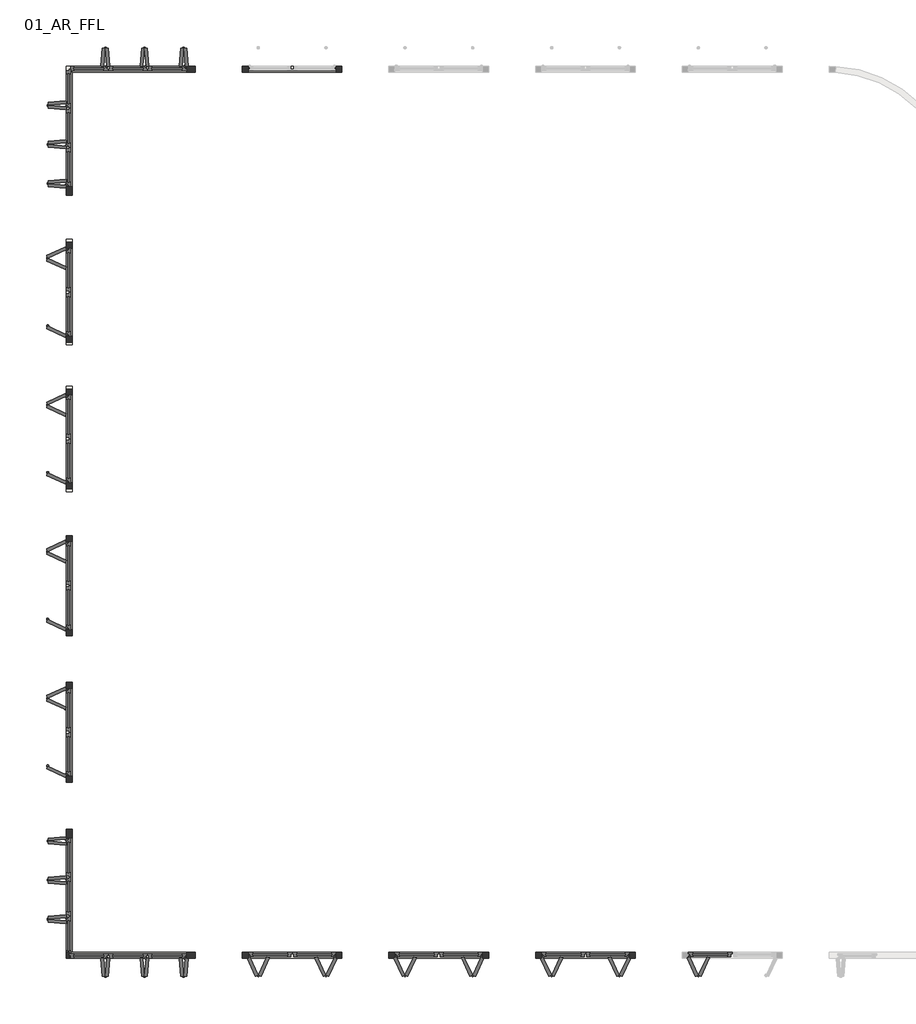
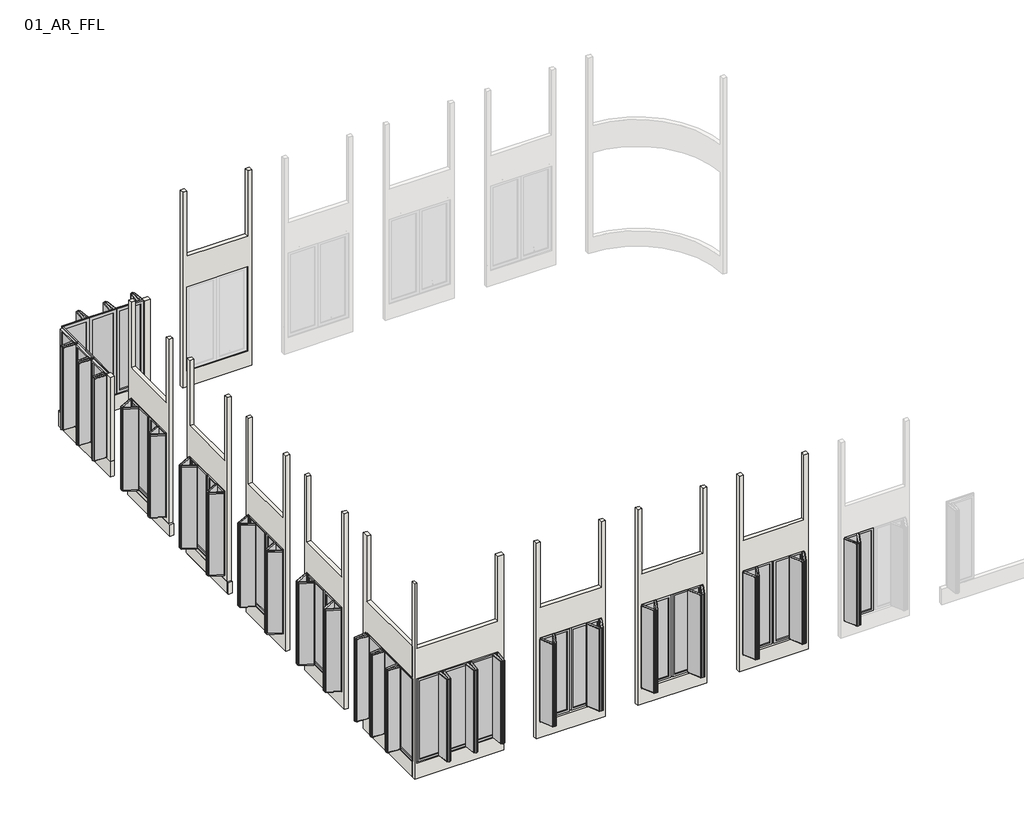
# One storey, part 1 of 2: 27 plates, 16 walls.
"""IFC4 building model written with IfcOpenShell, lengths in millimetres."""

from ifc_helpers import new_model, si_unit, frame, origin, place, context, project, spatial, polyline, outline, extrude, faceted_brep, transform, mapped, element, save
from components import vert_blinds_ff0d8fd8, vert_blinds_2d5f8e32, vert_blinds_a71b7738, vert_blinds_bae50e72

model = new_model("IFC4")

# Units and contexts
model_context = context("Model", 3, world=origin())
ifc_project = project(units=[si_unit("LENGTHUNIT", "METRE", prefix="MILLI")], contexts=[model_context])

# Site, building, storey
site = spatial("IfcSite", under=ifc_project)
building = spatial("IfcBuilding", under=site)
storey = spatial("IfcBuildingStorey", under=building, Name="01_AR_FFL", Elevation=6000.0)

# Plates
placement = place(None, origin())
vert_blinds_shape = vert_blinds_ff0d8fd8(model_context)
element("IfcPlate", 1, ObjectType="CURTAIN PANEL VODA STYLE BIFOLDING : VERT_BLINDS", at=placement, inside=storey, context=model_context, shape_type="MappedRepresentation", body=[
    mapped(vert_blinds_shape, transform((-10971.3871887, -5327.2397554, 6100.0), x_axis=(0.0, 1.0, 0.0), y_axis=(-1.0, 0.0, 0.0), z_axis=(0.0, 0.0, 1.0))),
])
element("IfcPlate", 2, ObjectType="CURTAIN PANEL VODA STYLE BIFOLDING : VERT_BLINDS", at=placement, inside=storey, context=model_context, shape_type="MappedRepresentation", body=[
    mapped(vert_blinds_shape, transform((-10971.3871887, -7827.2397554, 6100.0), x_axis=(0.0, 1.0, 0.0), y_axis=(-1.0, 0.0, 0.0), z_axis=(0.0, 0.0, 1.0))),
])
element("IfcPlate", 3, ObjectType="CURTAIN PANEL VODA STYLE BIFOLDING : VERT_BLINDS", at=placement, inside=storey, context=model_context, shape_type="MappedRepresentation", body=[
    mapped(vert_blinds_shape, transform((-10971.3871887, -10327.2397554, 6100.0), x_axis=(0.0, 1.0, 0.0), y_axis=(-1.0, 0.0, 0.0), z_axis=(0.0, 0.0, 1.0))),
])
element("IfcPlate", 4, ObjectType="CURTAIN PANEL VODA STYLE BIFOLDING : VERT_BLINDS", at=placement, inside=storey, context=model_context, shape_type="MappedRepresentation", body=[
    mapped(vert_blinds_shape, transform((-10971.3871887, -12827.2397554, 6100.0), x_axis=(0.0, 1.0, 0.0), y_axis=(-1.0, 0.0, 0.0), z_axis=(0.0, 0.0, 1.0))),
])
element("IfcPlate", 5, ObjectType="CURTAIN PANEL VODA STYLE BIFOLDING : VERT_BLINDS", at=placement, inside=storey, context=model_context, shape_type="MappedRepresentation", body=[
    mapped(vert_blinds_shape, transform((-1798.5775323, -16229.430099, 6100.0), x_axis=(-1.0, 0.0, 0.0), y_axis=(0.0, -1.0, 0.0), z_axis=(0.0, 0.0, 1.0))),
])
element("IfcPlate", 6, ObjectType="CURTAIN PANEL VODA STYLE BIFOLDING : VERT_BLINDS", at=placement, inside=storey, context=model_context, shape_type="MappedRepresentation", body=[
    mapped(vert_blinds_shape, transform((-4298.5775323, -16229.430099, 6100.0), x_axis=(-1.0, 0.0, 0.0), y_axis=(0.0, -1.0, 0.0), z_axis=(0.0, 0.0, 1.0))),
])
element("IfcPlate", 7, ObjectType="CURTAIN PANEL VODA STYLE BIFOLDING : VERT_BLINDS", at=placement, inside=storey, context=model_context, shape_type="MappedRepresentation", body=[
    mapped(vert_blinds_shape, transform((-6798.5775323, -16229.430099, 6100.0), x_axis=(-1.0, 0.0, 0.0), y_axis=(0.0, -1.0, 0.0), z_axis=(0.0, 0.0, 1.0))),
])
vert_blinds_2_shape = vert_blinds_2d5f8e32(model_context)
element("IfcPlate", 8, ObjectType="CURTAIN PANEL VODA STYLE BIFOLDING : VERT_BLINDS", at=placement, inside=storey, context=model_context, shape_type="MappedRepresentation", body=[
    mapped(vert_blinds_2_shape, transform((-10971.3871887, -4577.2397554, 6100.0), x_axis=(0.0, -1.0, 0.0), y_axis=(1.0, 0.0, 0.0), z_axis=(0.0, 0.0, 1.0))),
])
element("IfcPlate", 9, ObjectType="CURTAIN PANEL VODA STYLE BIFOLDING : VERT_BLINDS", at=placement, inside=storey, context=model_context, shape_type="MappedRepresentation", body=[
    mapped(vert_blinds_2_shape, transform((-10971.3871887, -7077.2397554, 6100.0), x_axis=(0.0, -1.0, 0.0), y_axis=(1.0, 0.0, 0.0), z_axis=(0.0, 0.0, 1.0))),
])
element("IfcPlate", 10, ObjectType="CURTAIN PANEL VODA STYLE BIFOLDING : VERT_BLINDS", at=placement, inside=storey, context=model_context, shape_type="MappedRepresentation", body=[
    mapped(vert_blinds_2_shape, transform((-10971.3871887, -9577.2397554, 6100.0), x_axis=(0.0, -1.0, 0.0), y_axis=(1.0, 0.0, 0.0), z_axis=(0.0, 0.0, 1.0))),
])
element("IfcPlate", 11, ObjectType="CURTAIN PANEL VODA STYLE BIFOLDING : VERT_BLINDS", at=placement, inside=storey, context=model_context, shape_type="MappedRepresentation", body=[
    mapped(vert_blinds_2_shape, transform((-10971.3871887, -12077.2397554, 6100.0), x_axis=(0.0, -1.0, 0.0), y_axis=(1.0, 0.0, 0.0), z_axis=(0.0, 0.0, 1.0))),
])
element("IfcPlate", 12, ObjectType="CURTAIN PANEL VODA STYLE BIFOLDING : VERT_BLINDS", at=placement, inside=storey, context=model_context, shape_type="MappedRepresentation", body=[
    mapped(vert_blinds_2_shape, transform((-48.5775323, -16229.430099, 6100.0), x_axis=(1.0, 0.0, 0.0), y_axis=(0.0, 1.0, 0.0), z_axis=(0.0, 0.0, 1.0))),
])
element("IfcPlate", 13, ObjectType="CURTAIN PANEL VODA STYLE BIFOLDING : VERT_BLINDS", at=placement, inside=storey, context=model_context, shape_type="MappedRepresentation", body=[
    mapped(vert_blinds_2_shape, transform((-2548.5775323, -16229.430099, 6100.0), x_axis=(1.0, 0.0, 0.0), y_axis=(0.0, 1.0, 0.0), z_axis=(0.0, 0.0, 1.0))),
])
element("IfcPlate", 14, ObjectType="CURTAIN PANEL VODA STYLE BIFOLDING : VERT_BLINDS", at=placement, inside=storey, context=model_context, shape_type="MappedRepresentation", body=[
    mapped(vert_blinds_2_shape, transform((-5048.5775323, -16229.430099, 6100.0), x_axis=(1.0, 0.0, 0.0), y_axis=(0.0, 1.0, 0.0), z_axis=(0.0, 0.0, 1.0))),
])
element("IfcPlate", 15, ObjectType="CURTAIN PANEL VODA STYLE BIFOLDING : VERT_BLINDS", at=placement, inside=storey, context=model_context, shape_type="MappedRepresentation", body=[
    mapped(vert_blinds_2_shape, transform((-7548.5775323, -16229.430099, 6100.0), x_axis=(1.0, 0.0, 0.0), y_axis=(0.0, 1.0, 0.0), z_axis=(0.0, 0.0, 1.0))),
])
vert_blinds_3_shape = vert_blinds_a71b7738(model_context)
element("IfcPlate", 16, ObjectType="CURTAIN PANEL VODA STYLE BIFOLDING : VERT_BLINDS", at=placement, inside=storey, context=model_context, shape_type="MappedRepresentation", body=[
    mapped(vert_blinds_3_shape, transform((-9304.680357, -1154.430099, 6100.0), x_axis=(-1.0, 0.0, 0.0), y_axis=(0.0, -1.0, 0.0), z_axis=(0.0, 0.0, 1.0))),
])
element("IfcPlate", 17, ObjectType="CURTAIN PANEL VODA STYLE BIFOLDING : VERT_BLINDS", at=placement, inside=storey, context=model_context, shape_type="MappedRepresentation", body=[
    mapped(vert_blinds_3_shape, transform((-9971.3470237, -1154.430099, 6100.0), x_axis=(-1.0, 0.0, 0.0), y_axis=(0.0, -1.0, 0.0), z_axis=(0.0, 0.0, 1.0))),
])
element("IfcPlate", 18, ObjectType="CURTAIN PANEL VODA STYLE BIFOLDING : VERT_BLINDS", at=placement, inside=storey, context=model_context, shape_type="MappedRepresentation", body=[
    mapped(vert_blinds_3_shape, transform((-10638.0136904, -1154.430099, 6100.0), x_axis=(-1.0, 0.0, 0.0), y_axis=(0.0, -1.0, 0.0), z_axis=(0.0, 0.0, 1.0))),
])
vert_blinds_4_shape = vert_blinds_bae50e72(model_context)
element("IfcPlate", 19, ObjectType="CURTAIN PANEL VODA STYLE BIFOLDING : VERT_BLINDS", at=placement, inside=storey, context=model_context, shape_type="MappedRepresentation", body=[
    mapped(vert_blinds_4_shape, transform((-10971.3470237, -1487.7634324, 6100.0), x_axis=(0.0, 1.0, 0.0), y_axis=(-1.0, 0.0, 0.0), z_axis=(0.0, 0.0, 1.0))),
])
element("IfcPlate", 20, ObjectType="CURTAIN PANEL VODA STYLE BIFOLDING : VERT_BLINDS", at=placement, inside=storey, context=model_context, shape_type="MappedRepresentation", body=[
    mapped(vert_blinds_4_shape, transform((-10971.3470237, -2821.0967657, 6100.0), x_axis=(0.0, 1.0, 0.0), y_axis=(-1.0, 0.0, 0.0), z_axis=(0.0, 0.0, 1.0))),
])
element("IfcPlate", 21, ObjectType="CURTAIN PANEL VODA STYLE BIFOLDING : VERT_BLINDS", at=placement, inside=storey, context=model_context, shape_type="MappedRepresentation", body=[
    mapped(vert_blinds_4_shape, transform((-10971.3470237, -2154.430099, 6100.0), x_axis=(0.0, 1.0, 0.0), y_axis=(-1.0, 0.0, 0.0), z_axis=(0.0, 0.0, 1.0))),
])
element("IfcPlate", 22, ObjectType="CURTAIN PANEL VODA STYLE BIFOLDING : VERT_BLINDS", at=placement, inside=storey, context=model_context, shape_type="MappedRepresentation", body=[
    mapped(vert_blinds_4_shape, transform((-9304.680357, -16254.430099, 6100.0), x_axis=(-1.0, 0.0, 0.0), y_axis=(0.0, -1.0, 0.0), z_axis=(0.0, 0.0, 1.0))),
])
element("IfcPlate", 23, ObjectType="CURTAIN PANEL VODA STYLE BIFOLDING : VERT_BLINDS", at=placement, inside=storey, context=model_context, shape_type="MappedRepresentation", body=[
    mapped(vert_blinds_4_shape, transform((-9971.3470237, -16254.430099, 6100.0), x_axis=(-1.0, 0.0, 0.0), y_axis=(0.0, -1.0, 0.0), z_axis=(0.0, 0.0, 1.0))),
])
element("IfcPlate", 24, ObjectType="CURTAIN PANEL VODA STYLE BIFOLDING : VERT_BLINDS", at=placement, inside=storey, context=model_context, shape_type="MappedRepresentation", body=[
    mapped(vert_blinds_4_shape, transform((-10638.0136904, -16254.430099, 6100.0), x_axis=(-1.0, 0.0, 0.0), y_axis=(0.0, -1.0, 0.0), z_axis=(0.0, 0.0, 1.0))),
])
element("IfcPlate", 25, ObjectType="CURTAIN PANEL VODA STYLE BIFOLDING : VERT_BLINDS", at=placement, inside=storey, context=model_context, shape_type="MappedRepresentation", body=[
    mapped(vert_blinds_3_shape, transform((-10971.3470237, -15921.0967657, 6100.0), x_axis=(0.0, -1.0, 0.0), y_axis=(1.0, 0.0, 0.0), z_axis=(0.0, 0.0, 1.0))),
])
element("IfcPlate", 26, ObjectType="CURTAIN PANEL VODA STYLE BIFOLDING : VERT_BLINDS", at=placement, inside=storey, context=model_context, shape_type="MappedRepresentation", body=[
    mapped(vert_blinds_3_shape, transform((-10971.3470237, -14587.7634324, 6100.0), x_axis=(0.0, -1.0, 0.0), y_axis=(1.0, 0.0, 0.0), z_axis=(0.0, 0.0, 1.0))),
])
element("IfcPlate", 27, ObjectType="CURTAIN PANEL VODA STYLE BIFOLDING : VERT_BLINDS", at=placement, inside=storey, context=model_context, shape_type="MappedRepresentation", body=[
    mapped(vert_blinds_3_shape, transform((-10971.3470237, -15254.430099, 6100.0), x_axis=(0.0, -1.0, 0.0), y_axis=(1.0, 0.0, 0.0), z_axis=(0.0, 0.0, 1.0))),
])

# Walls
element("IfcWall", 28, ObjectType="Generic - 100mm", at=placement, inside=storey, context=model_context, shape_type="Brep", body=[
    faceted_brep([(-8023.5775323, -1204.430099, 5700.0), (-6323.5775323, -1204.430099, 5700.0), (-6323.5775323, -1204.430099, 9000.0), (-6323.5775323, -1204.430099, 10800.0), (-6423.5775323, -1204.430099, 10800.0), (-6423.5775323, -1204.430099, 9100.0), (-7923.5775323, -1204.430099, 9100.0), (-7923.5775323, -1204.430099, 10800.0), (-8023.5775323, -1204.430099, 10800.0), (-8023.5775323, -1204.430099, 9000.0), (-7923.5775323, -1204.430099, 6100.0), (-7923.5775323, -1204.430099, 8300.0), (-6423.5775323, -1204.430099, 8300.0), (-6423.5775323, -1204.430099, 6100.0), (-6323.5775323, -1104.430099, 5700.0), (-8023.5775323, -1104.430099, 5700.0), (-8023.5775323, -1104.430099, 10800.0), (-7923.5775323, -1104.430099, 10800.0), (-7923.5775323, -1104.430099, 9100.0), (-6423.5775323, -1104.430099, 9100.0), (-6423.5775323, -1104.430099, 10800.0), (-6323.5775323, -1104.430099, 10800.0), (-7923.5775323, -1104.430099, 8300.0), (-7923.5775323, -1104.430099, 6100.0), (-6423.5775323, -1104.430099, 6100.0), (-6423.5775323, -1104.430099, 8300.0)], [[[0, 1, 2, 3, 4, 5, 6, 7, 8, 9], [10, 11, 12, 13]], [[14, 15, 16, 17, 18, 19, 20, 21], [22, 23, 24, 25]], [[1, 0, 15, 14]], [[16, 8, 7, 17]], [[3, 21, 20, 4]], [[0, 9, 8, 16, 15]], [[3, 2, 1, 14, 21]], [[10, 23, 22, 11]], [[11, 22, 25, 12]], [[12, 25, 24, 13]], [[23, 10, 13, 24]], [[6, 18, 17, 7]], [[19, 5, 4, 20]], [[18, 6, 5, 19]]]),
])
element("IfcWall", 29, ObjectType="Generic - 100mm", at=placement, inside=storey, context=model_context, shape_type="SweptSolid", body=[
    extrude(outline(polyline([(-11021.3871887, -5852.2397554), (-11021.3871887, -4052.2397554), (-10921.3871887, -4052.2397554), (-10921.3871887, -5852.2397554), (-11021.3871887, -5852.2397554)])), frame((0.0, 0.0, 5700.0), z_axis=(0.0, 0.0, 1.0), x_axis=(1.0, 0.0, 0.0)), (0.0, 0.0, 1.0), 300.0),
])
element("IfcWall", 30, ObjectType="Generic - 100mm", at=placement, inside=storey, context=model_context, shape_type="SweptSolid", body=[
    extrude(outline(polyline([(-11021.3871887, -8352.2397554), (-11021.3871887, -6552.2397554), (-10921.3871887, -6552.2397554), (-10921.3871887, -8352.2397554), (-11021.3871887, -8352.2397554)])), frame((0.0, 0.0, 5700.0), z_axis=(0.0, 0.0, 1.0), x_axis=(1.0, 0.0, 0.0)), (0.0, 0.0, 1.0), 300.0),
])
element("IfcWall", 31, ObjectType="Generic - 100mm", at=placement, inside=storey, context=model_context, shape_type="SweptSolid", body=[
    extrude(outline(polyline([(-4104.430099, 5700.0), (-5804.430099, 5700.0), (-5804.430099, 10800.0), (-5702.2397554, 10800.0), (-5702.2397554, 9100.0), (-4202.2397554, 9100.0), (-4202.2397554, 10800.0), (-4104.430099, 10800.0), (-4104.430099, 5700.0)]), holes=[polyline([(-4202.2397554, 6100.0), (-4202.2397554, 8300.0), (-5702.2397554, 8300.0), (-5702.2397554, 6100.0), (-4202.2397554, 6100.0)])]), frame((-11021.3871887, 0.0, 0.0), z_axis=(1.0, 0.0, 0.0), x_axis=(0.0, 1.0, 0.0)), (0.0, 0.0, 1.0), 100.0),
])
element("IfcWall", 32, ObjectType="Generic - 100mm", at=placement, inside=storey, context=model_context, shape_type="SweptSolid", body=[
    extrude(outline(polyline([(-6604.430099, 5700.0), (-8304.430099, 5700.0), (-8304.430099, 10800.0), (-8202.2397554, 10800.0), (-8202.2397554, 9100.0), (-6702.2397554, 9100.0), (-6702.2397554, 10800.0), (-6604.430099, 10800.0), (-6604.430099, 5700.0)]), holes=[polyline([(-6702.2397554, 6100.0), (-6702.2397554, 8300.0), (-8202.2397554, 8300.0), (-8202.2397554, 6100.0), (-6702.2397554, 6100.0)])]), frame((-11021.3871887, 0.0, 0.0), z_axis=(1.0, 0.0, 0.0), x_axis=(0.0, 1.0, 0.0)), (0.0, 0.0, 1.0), 100.0),
])
element("IfcWall", 33, ObjectType="Generic - 100mm", at=placement, inside=storey, context=model_context, shape_type="Brep", body=[
    faceted_brep([(-8823.5775323, -1104.430099, 5700.0), (-11021.3871887, -1104.430099, 5700.0), (-11021.3871887, -1104.430099, 6100.0), (-8971.3470237, -1104.430099, 6100.0), (-8823.5775323, -1104.430099, 6100.0), (-8823.5775323, -1204.430099, 5700.0), (-8823.5775323, -1204.430099, 6100.0), (-8971.3470237, -1204.430099, 6100.0), (-10921.3871887, -1204.430099, 6100.0), (-11021.3871887, -1204.430099, 6100.0), (-11021.3871887, -1204.430099, 5700.0), (-10921.3871887, -1204.430099, 5700.0)], [[[0, 1, 2, 3, 4]], [[5, 6, 7, 8, 9, 10, 11]], [[1, 0, 5, 11, 10]], [[4, 3, 2, 9, 8, 7, 6]], [[0, 4, 6, 5]], [[2, 1, 10, 9]]]),
])
element("IfcWall", 34, ObjectType="Generic - 100mm", at=placement, inside=storey, context=model_context, shape_type="Brep", body=[
    faceted_brep([(-10921.3871887, -3304.430099, 5700.0), (-10921.3871887, -1204.430099, 5700.0), (-10921.3871887, -1204.430099, 6100.0), (-10921.3871887, -3154.430099, 6100.0), (-10921.3871887, -3304.430099, 6100.0), (-11021.3871887, -3304.430099, 5700.0), (-11021.3871887, -3304.430099, 6100.0), (-11021.3871887, -3154.430099, 6100.0), (-11021.3871887, -1204.430099, 6100.0), (-11021.3871887, -1204.430099, 5700.0), (-10933.5775323, -3304.430099, 5700.0)], [[[0, 1, 2, 3, 4]], [[5, 6, 7, 8, 9]], [[1, 0, 10, 5, 9]], [[4, 3, 2, 8, 7, 6]], [[2, 1, 9, 8]], [[0, 4, 6, 5, 10]]]),
])
element("IfcWall", 35, ObjectType="Generic - 100mm", at=placement, inside=storey, context=model_context, shape_type="SweptSolid", body=[
    extrude(outline(polyline([(-8971.3470237, -1104.430099), (-8823.5775323, -1104.430099), (-8823.5775323, -1204.430099), (-8971.3470237, -1204.430099), (-8971.3470237, -1104.430099)])), frame((0.0, 0.0, 6100.0), z_axis=(0.0, 0.0, 1.0), x_axis=(1.0, 0.0, 0.0)), (0.0, 0.0, 1.0), 2200.0),
])
element("IfcWall", 36, ObjectType="Generic - 100mm", at=placement, inside=storey, context=model_context, shape_type="SweptSolid", body=[
    extrude(outline(polyline([(-10921.3871887, -3154.430099), (-10921.3871887, -3304.430099), (-11021.3871887, -3304.430099), (-11021.3871887, -3154.430099), (-10921.3871887, -3154.430099)])), frame((0.0, 0.0, 6100.0), z_axis=(0.0, 0.0, 1.0), x_axis=(1.0, 0.0, 0.0)), (0.0, 0.0, 1.0), 2200.0),
])
element("IfcWall", 37, ObjectType="Generic - 100mm", at=placement, inside=storey, context=model_context, shape_type="Brep", body=[
    faceted_brep([(-11021.3871887, -9104.430099, 5700.0), (-11021.3871887, -10804.430099, 5700.0), (-11021.3871887, -10804.430099, 10800.0), (-11021.3871887, -10702.2397554, 10800.0), (-11021.3871887, -10702.2397554, 9100.0), (-11021.3871887, -9202.2397554, 9100.0), (-11021.3871887, -9202.2397554, 10800.0), (-11021.3871887, -9104.430099, 10800.0), (-11021.3871887, -9202.2397554, 6100.0), (-11021.3871887, -9202.2397554, 8300.0), (-11021.3871887, -10702.2397554, 8300.0), (-11021.3871887, -10702.2397554, 6100.0), (-10921.3871887, -10804.430099, 5700.0), (-10921.3871887, -9104.430099, 5700.0), (-10921.3871887, -9104.430099, 10800.0), (-10921.3871887, -9202.2397554, 10800.0), (-10921.3871887, -9202.2397554, 9100.0), (-10921.3871887, -10702.2397554, 9100.0), (-10921.3871887, -10702.2397554, 10800.0), (-10921.3871887, -10804.430099, 10800.0), (-10921.3871887, -10804.430099, 9000.0), (-10921.3871887, -9202.2397554, 8300.0), (-10921.3871887, -9202.2397554, 6100.0), (-10921.3871887, -10702.2397554, 6100.0), (-10921.3871887, -10702.2397554, 8300.0)], [[[0, 1, 2, 3, 4, 5, 6, 7], [8, 9, 10, 11]], [[12, 13, 14, 15, 16, 17, 18, 19, 20], [21, 22, 23, 24]], [[1, 0, 13, 12]], [[2, 1, 12, 20, 19]], [[2, 19, 18, 3]], [[14, 7, 6, 15]], [[0, 7, 14, 13]], [[8, 22, 21, 9]], [[9, 21, 24, 10]], [[10, 24, 23, 11]], [[22, 8, 11, 23]], [[5, 16, 15, 6]], [[17, 4, 3, 18]], [[16, 5, 4, 17]]]),
])
element("IfcWall", 38, ObjectType="Generic - 100mm", at=placement, inside=storey, context=model_context, shape_type="Brep", body=[
    faceted_brep([(-11021.3871887, -11604.430099, 5700.0), (-11021.3871887, -13304.430099, 5700.0), (-11021.3871887, -13304.430099, 10800.0), (-11021.3871887, -13202.2397554, 10800.0), (-11021.3871887, -13202.2397554, 9100.0), (-11021.3871887, -11702.2397554, 9100.0), (-11021.3871887, -11702.2397554, 10800.0), (-11021.3871887, -11604.430099, 10800.0), (-11021.3871887, -11702.2397554, 6100.0), (-11021.3871887, -11702.2397554, 8300.0), (-11021.3871887, -13202.2397554, 8300.0), (-11021.3871887, -13202.2397554, 6100.0), (-10921.3871887, -13304.430099, 5700.0), (-10921.3871887, -11604.430099, 5700.0), (-10921.3871887, -11604.430099, 9000.0), (-10921.3871887, -11604.430099, 10800.0), (-10921.3871887, -11702.2397554, 10800.0), (-10921.3871887, -11702.2397554, 9100.0), (-10921.3871887, -13202.2397554, 9100.0), (-10921.3871887, -13202.2397554, 10800.0), (-10921.3871887, -13304.430099, 10800.0), (-10921.3871887, -11702.2397554, 8300.0), (-10921.3871887, -11702.2397554, 6100.0), (-10921.3871887, -13202.2397554, 6100.0), (-10921.3871887, -13202.2397554, 8300.0)], [[[0, 1, 2, 3, 4, 5, 6, 7], [8, 9, 10, 11]], [[12, 13, 14, 15, 16, 17, 18, 19, 20], [21, 22, 23, 24]], [[1, 0, 13, 12]], [[2, 1, 12, 20]], [[2, 20, 19, 3]], [[15, 7, 6, 16]], [[0, 7, 15, 14, 13]], [[8, 22, 21, 9]], [[9, 21, 24, 10]], [[10, 24, 23, 11]], [[22, 8, 11, 23]], [[5, 17, 16, 6]], [[18, 4, 3, 19]], [[17, 5, 4, 18]]]),
])
element("IfcWall", 39, ObjectType="Generic - 100mm", at=placement, inside=storey, context=model_context, shape_type="Brep", body=[
    faceted_brep([(-8823.5775323, -16204.430099, 5700.0), (-10921.3871887, -16204.430099, 5700.0), (-11021.3871887, -16204.430099, 5700.0), (-11021.3871887, -16204.430099, 10800.0), (-10971.3470237, -16204.430099, 10800.0), (-10971.3470237, -16204.430099, 9100.0), (-8971.3470237, -16204.430099, 9100.0), (-8971.3470237, -16204.430099, 10800.0), (-8823.5775323, -16204.430099, 10800.0), (-8823.5775323, -16204.430099, 9000.0), (-8971.3470237, -16204.430099, 6100.0), (-8971.3470237, -16204.430099, 8300.0), (-10971.3470237, -16204.430099, 8300.0), (-10971.3470237, -16204.430099, 6100.0), (-11021.3871887, -16304.430099, 5700.0), (-8823.5775323, -16304.430099, 5700.0), (-8823.5775323, -16304.430099, 10800.0), (-8971.3470237, -16304.430099, 10800.0), (-8971.3470237, -16304.430099, 9100.0), (-10971.3470237, -16304.430099, 9100.0), (-10971.3470237, -16304.430099, 10800.0), (-11021.3871887, -16304.430099, 10800.0), (-8971.3470237, -16304.430099, 8300.0), (-8971.3470237, -16304.430099, 6100.0), (-10971.3470237, -16304.430099, 6100.0), (-10971.3470237, -16304.430099, 8300.0)], [[[0, 1, 2, 3, 4, 5, 6, 7, 8, 9], [10, 11, 12, 13]], [[14, 15, 16, 17, 18, 19, 20, 21], [22, 23, 24, 25]], [[2, 1, 0, 15, 14]], [[3, 21, 20, 4]], [[16, 8, 7, 17]], [[3, 2, 14, 21]], [[0, 9, 8, 16, 15]], [[6, 18, 17, 7]], [[19, 5, 4, 20]], [[18, 6, 5, 19]], [[10, 23, 22, 11]], [[11, 22, 25, 12]], [[12, 25, 24, 13]], [[23, 10, 13, 24]]]),
])
element("IfcWall", 40, ObjectType="Generic - 100mm", at=placement, inside=storey, context=model_context, shape_type="Brep", body=[
    faceted_brep([(-11021.3871887, -14104.430099, 5700.0), (-11021.3871887, -16204.430099, 5700.0), (-11021.3871887, -16204.430099, 6100.0), (-11021.3871887, -14254.430099, 6100.0), (-11021.3871887, -14254.430099, 8300.0), (-11021.3871887, -16204.430099, 8300.0), (-11021.3871887, -16204.430099, 9100.0), (-11021.3871887, -14254.430099, 9100.0), (-11021.3871887, -14254.430099, 10800.0), (-11021.3871887, -14104.430099, 10800.0), (-10921.3871887, -16204.430099, 5700.0), (-10921.3871887, -14104.430099, 5700.0), (-10921.3871887, -14104.430099, 10800.0), (-10921.3871887, -14254.430099, 10800.0), (-10921.3871887, -14254.430099, 9100.0), (-10921.3871887, -16204.430099, 9100.0), (-10921.3871887, -16204.430099, 8300.0), (-10921.3871887, -14254.430099, 8300.0), (-10921.3871887, -14254.430099, 6100.0), (-10921.3871887, -16204.430099, 6100.0), (-10971.3470237, -16204.430099, 6100.0), (-10971.3470237, -16204.430099, 8300.0), (-10971.3470237, -16204.430099, 9100.0)], [[[0, 1, 2, 3, 4, 5, 6, 7, 8, 9]], [[10, 11, 12, 13, 14, 15, 16, 17, 18, 19]], [[1, 0, 11, 10]], [[12, 9, 8, 13]], [[0, 9, 12, 11]], [[1, 10, 19, 20, 2]], [[5, 21, 16, 15, 22, 6]], [[4, 17, 16, 21, 5]], [[17, 4, 3, 18]], [[18, 3, 2, 20, 19]], [[7, 14, 13, 8]], [[14, 7, 6, 22, 15]]]),
])
element("IfcWall", 41, ObjectType="Generic - 100mm", at=placement, inside=storey, context=model_context, shape_type="Brep", body=[
    faceted_brep([(-5523.5775323, -16304.430099, 5700.0), (-3823.5775323, -16304.430099, 5700.0), (-3823.5775323, -16304.430099, 10800.0), (-3923.5775323, -16304.430099, 10800.0), (-3923.5775323, -16304.430099, 9100.0), (-5423.5775323, -16304.430099, 9100.0), (-5423.5775323, -16304.430099, 10800.0), (-5523.5775323, -16304.430099, 10800.0), (-5423.5775323, -16304.430099, 6100.0), (-5423.5775323, -16304.430099, 8300.0), (-3923.5775323, -16304.430099, 8300.0), (-3923.5775323, -16304.430099, 6100.0), (-3823.5775323, -16204.430099, 5700.0), (-5523.5775323, -16204.430099, 5700.0), (-5523.5775323, -16204.430099, 9000.0), (-5523.5775323, -16204.430099, 10800.0), (-5423.5775323, -16204.430099, 10800.0), (-5423.5775323, -16204.430099, 9100.0), (-3923.5775323, -16204.430099, 9100.0), (-3923.5775323, -16204.430099, 10800.0), (-3823.5775323, -16204.430099, 10800.0), (-3823.5775323, -16204.430099, 9000.0), (-5423.5775323, -16204.430099, 8300.0), (-5423.5775323, -16204.430099, 6100.0), (-3923.5775323, -16204.430099, 6100.0), (-3923.5775323, -16204.430099, 8300.0)], [[[0, 1, 2, 3, 4, 5, 6, 7], [8, 9, 10, 11]], [[12, 13, 14, 15, 16, 17, 18, 19, 20, 21], [22, 23, 24, 25]], [[1, 0, 13, 12]], [[15, 7, 6, 16]], [[2, 20, 19, 3]], [[0, 7, 15, 14, 13]], [[2, 1, 12, 21, 20]], [[8, 23, 22, 9]], [[9, 22, 25, 10]], [[10, 25, 24, 11]], [[23, 8, 11, 24]], [[5, 17, 16, 6]], [[18, 4, 3, 19]], [[17, 5, 4, 18]]]),
])
element("IfcWall", 42, ObjectType="Generic - 100mm", at=placement, inside=storey, context=model_context, shape_type="Brep", body=[
    faceted_brep([(-8023.5775323, -16304.430099, 5700.0), (-6323.5775323, -16304.430099, 5700.0), (-6323.5775323, -16304.430099, 10800.0), (-6423.5775323, -16304.430099, 10800.0), (-6423.5775323, -16304.430099, 9100.0), (-7923.5775323, -16304.430099, 9100.0), (-7923.5775323, -16304.430099, 10800.0), (-8023.5775323, -16304.430099, 10800.0), (-7923.5775323, -16304.430099, 6100.0), (-7923.5775323, -16304.430099, 8300.0), (-6423.5775323, -16304.430099, 8300.0), (-6423.5775323, -16304.430099, 6100.0), (-6323.5775323, -16204.430099, 5700.0), (-8023.5775323, -16204.430099, 5700.0), (-8023.5775323, -16204.430099, 9000.0), (-8023.5775323, -16204.430099, 10800.0), (-7923.5775323, -16204.430099, 10800.0), (-7923.5775323, -16204.430099, 9100.0), (-6423.5775323, -16204.430099, 9100.0), (-6423.5775323, -16204.430099, 10800.0), (-6323.5775323, -16204.430099, 10800.0), (-6323.5775323, -16204.430099, 9000.0), (-7923.5775323, -16204.430099, 8300.0), (-7923.5775323, -16204.430099, 6100.0), (-6423.5775323, -16204.430099, 6100.0), (-6423.5775323, -16204.430099, 8300.0)], [[[0, 1, 2, 3, 4, 5, 6, 7], [8, 9, 10, 11]], [[12, 13, 14, 15, 16, 17, 18, 19, 20, 21], [22, 23, 24, 25]], [[1, 0, 13, 12]], [[15, 7, 6, 16]], [[2, 20, 19, 3]], [[0, 7, 15, 14, 13]], [[2, 1, 12, 21, 20]], [[8, 23, 22, 9]], [[9, 22, 25, 10]], [[10, 25, 24, 11]], [[23, 8, 11, 24]], [[5, 17, 16, 6]], [[18, 4, 3, 19]], [[17, 5, 4, 18]]]),
])
element("IfcWall", 43, ObjectType="Generic - 100mm", at=placement, inside=storey, context=model_context, shape_type="Brep", body=[
    faceted_brep([(-3023.5775323, -16304.430099, 5700.0), (-1323.5775323, -16304.430099, 5700.0), (-1323.5775323, -16304.430099, 10800.0), (-1423.5775323, -16304.430099, 10800.0), (-1423.5775323, -16304.430099, 9100.0), (-2923.5775323, -16304.430099, 9100.0), (-2923.5775323, -16304.430099, 10800.0), (-3023.5775323, -16304.430099, 10800.0), (-2923.5775323, -16304.430099, 6100.0), (-2923.5775323, -16304.430099, 8300.0), (-1423.5775323, -16304.430099, 8300.0), (-1423.5775323, -16304.430099, 6100.0), (-1323.5775323, -16204.430099, 5700.0), (-3023.5775323, -16204.430099, 5700.0), (-3023.5775323, -16204.430099, 9000.0), (-3023.5775323, -16204.430099, 10800.0), (-2923.5775323, -16204.430099, 10800.0), (-2923.5775323, -16204.430099, 9100.0), (-1423.5775323, -16204.430099, 9100.0), (-1423.5775323, -16204.430099, 10800.0), (-1323.5775323, -16204.430099, 10800.0), (-1323.5775323, -16204.430099, 9000.0), (-2923.5775323, -16204.430099, 8300.0), (-2923.5775323, -16204.430099, 6100.0), (-1423.5775323, -16204.430099, 6100.0), (-1423.5775323, -16204.430099, 8300.0)], [[[0, 1, 2, 3, 4, 5, 6, 7], [8, 9, 10, 11]], [[12, 13, 14, 15, 16, 17, 18, 19, 20, 21], [22, 23, 24, 25]], [[1, 0, 13, 12]], [[15, 7, 6, 16]], [[2, 20, 19, 3]], [[0, 7, 15, 14, 13]], [[2, 1, 12, 21, 20]], [[8, 23, 22, 9]], [[9, 22, 25, 10]], [[10, 25, 24, 11]], [[23, 8, 11, 24]], [[5, 17, 16, 6]], [[18, 4, 3, 19]], [[17, 5, 4, 18]]]),
])

save(model, "model.ifc")
